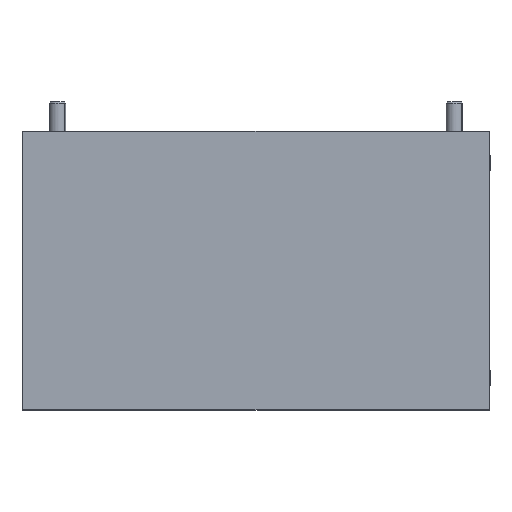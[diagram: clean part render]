
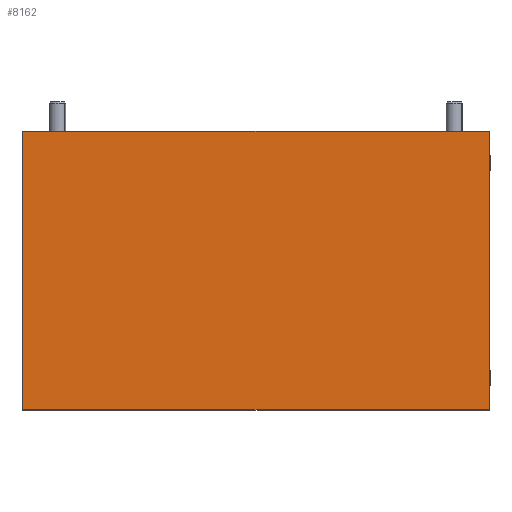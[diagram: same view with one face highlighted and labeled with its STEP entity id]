
A CAD part, top view. The second image highlights one B-rep face of the part: STEP entity #8162.
In plain terms, the highlighted planar face has unit normal (0, 0, 1) as drawn and (0, 0, -1) by its records, which use the part's own axes.
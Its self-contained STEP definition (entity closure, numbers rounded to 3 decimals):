
#223 = EDGE_LOOP ( 'NONE', ( #5201, #13242, #9101, #738 ) ) ;
#421 = DIRECTION ( 'NONE',  ( -1., 0., 0. ) ) ;
#486 = DIRECTION ( 'NONE',  ( 0., 0., -1. ) ) ;
#713 = LINE ( 'NONE', #4733, #6150 ) ;
#738 = ORIENTED_EDGE ( 'NONE', *, *, #12853, .F. ) ;
#1540 = DIRECTION ( 'NONE',  ( -1., 0., 0. ) ) ;
#1971 = EDGE_CURVE ( 'NONE', #11638, #5815, #4516, .T. ) ;
#2714 = VERTEX_POINT ( 'NONE', #11641 ) ;
#3302 = DIRECTION ( 'NONE',  ( 0., 1., 0. ) ) ;
#3397 = CARTESIAN_POINT ( 'NONE',  ( 0., -100., -2.5 ) ) ;
#3612 = CARTESIAN_POINT ( 'NONE',  ( 167.75, 100., -2.5 ) ) ;
#4169 = EDGE_CURVE ( 'NONE', #2714, #11638, #7408, .T. ) ;
#4516 = LINE ( 'NONE', #8478, #10953 ) ;
#4565 = FACE_OUTER_BOUND ( 'NONE', #223, .T. ) ;
#4733 = CARTESIAN_POINT ( 'NONE',  ( 0., 100., -2.5 ) ) ;
#5201 = ORIENTED_EDGE ( 'NONE', *, *, #1971, .F. ) ;
#5815 = VERTEX_POINT ( 'NONE', #3612 ) ;
#5912 = EDGE_CURVE ( 'NONE', #6968, #2714, #13212, .T. ) ;
#6150 = VECTOR ( 'NONE', #1540, 1000. ) ;
#6968 = VERTEX_POINT ( 'NONE', #9998 ) ;
#7222 = AXIS2_PLACEMENT_3D ( 'NONE', #11936, #486, #421 ) ;
#7408 = LINE ( 'NONE', #3397, #12234 ) ;
#8162 = ADVANCED_FACE ( 'NONE', ( #4565 ), #11735, .T. ) ;
#8478 = CARTESIAN_POINT ( 'NONE',  ( 167.75, 0., -2.5 ) ) ;
#9101 = ORIENTED_EDGE ( 'NONE', *, *, #5912, .F. ) ;
#9819 = VECTOR ( 'NONE', #11989, 1000. ) ;
#9998 = CARTESIAN_POINT ( 'NONE',  ( -167.75, 100., -2.5 ) ) ;
#10953 = VECTOR ( 'NONE', #3302, 1000. ) ;
#11633 = CARTESIAN_POINT ( 'NONE',  ( 167.75, -100., -2.5 ) ) ;
#11638 = VERTEX_POINT ( 'NONE', #11633 ) ;
#11641 = CARTESIAN_POINT ( 'NONE',  ( -167.75, -100., -2.5 ) ) ;
#11735 = PLANE ( 'NONE',  #7222 ) ;
#11936 = CARTESIAN_POINT ( 'NONE',  ( 0., 0., -2.5 ) ) ;
#11989 = DIRECTION ( 'NONE',  ( 0., -1., 0. ) ) ;
#12126 = CARTESIAN_POINT ( 'NONE',  ( -167.75, 0., -2.5 ) ) ;
#12234 = VECTOR ( 'NONE', #12595, 1000. ) ;
#12595 = DIRECTION ( 'NONE',  ( 1., 0., 0. ) ) ;
#12853 = EDGE_CURVE ( 'NONE', #5815, #6968, #713, .T. ) ;
#13212 = LINE ( 'NONE', #12126, #9819 ) ;
#13242 = ORIENTED_EDGE ( 'NONE', *, *, #4169, .F. ) ;
